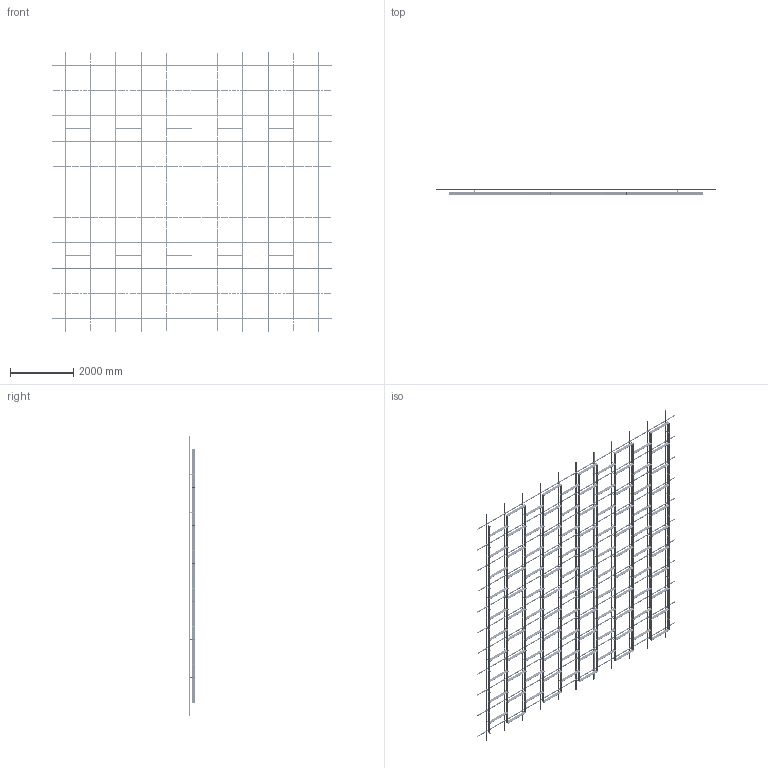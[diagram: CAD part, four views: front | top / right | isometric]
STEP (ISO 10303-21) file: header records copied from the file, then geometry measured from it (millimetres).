
FILE_DESCRIPTION (( 'STEP AP203' ), '1' );
FILE_NAME ('6 ìèäè ñ ïñ.step', '2025-11-26T11:31:55', ( '' ), ( '' ), 'SwSTEP 2.0', 'SolidWorks 2020', '' );
FILE_SCHEMA (( 'CONFIG_CONTROL_DESIGN' ));
Length unit declared in the file: millimetre
Products named in the file (5): Var6; Ñèñòåìà â çîíå 8000õ8000; 6 ìèäè ñ ïñ; SS.SEMA.2400 - Ñèìà-ïðîôèëü; SS.SEMA.2400 - Ñèìà-ïðîôèëü — îáðåçàí 1600
Assembly tree (90 placements, depth 3):
  6 ìèäè ñ ïñ
    Ñèñòåìà â çîíå 8000õ8000
      SS.SEMA.2400 - Ñèìà-ïðîôèëü  x66
      SS.SEMA.2400 - Ñèìà-ïðîôèëü — îáðåçàí 1600  x22
    Var6
Bounding box: 8800 x 205 x 8800 mm (x, y, z)
Volume: 158399563.7 mm3; surface area: 66646130.8 mm2
Topology: 1337 solids, 1337 shells, 22146 faces, 57008 edges, 37536 vertices
Faces by surface type: cylinder 13706, plane 8440
Entity records: 144585 total; most frequent: CARTESIAN_POINT 34408, DIRECTION 21038, ORIENTED_EDGE 20864, EDGE_CURVE 10432, AXIS2_PLACEMENT_3D 10270, VERTEX_POINT 6944, EDGE_LOOP 6152, FACE_OUTER_BOUND 5990
